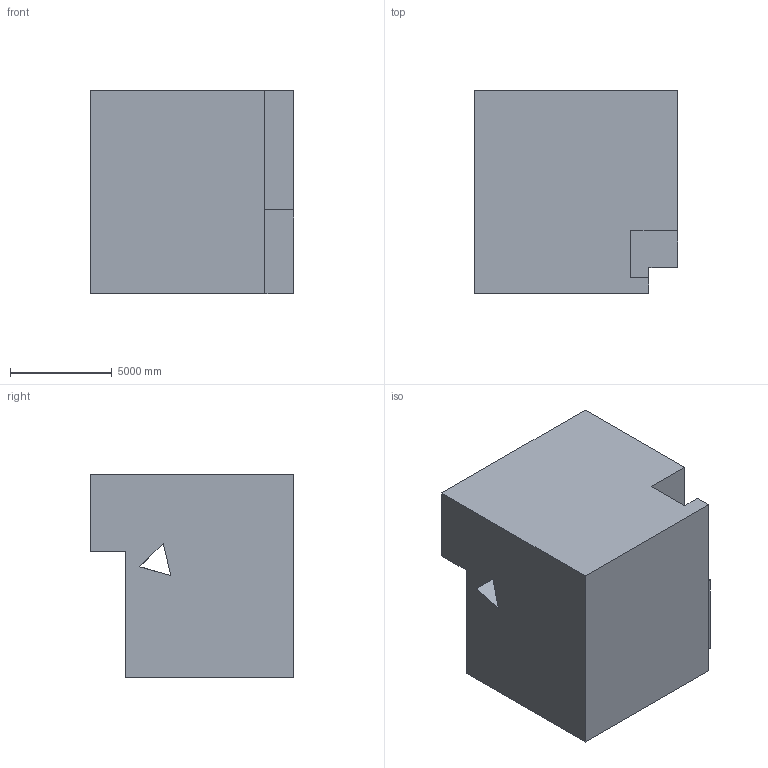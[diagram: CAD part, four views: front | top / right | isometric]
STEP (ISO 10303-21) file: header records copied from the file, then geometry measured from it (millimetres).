
FILE_DESCRIPTION (( 'STEP AP203' ), '1' );
FILE_NAME ('566.STEP', '2022-07-29T11:51:15', ( 'user' ), ( '' ), 'SwSTEP 2.0', 'SolidWorks 2021', '' );
FILE_SCHEMA (( 'CONFIG_CONTROL_DESIGN' ));
Length unit declared in the file: centimetre
Products named in the file (1): 566
Bounding box: 10000 x 10000 x 10000 mm (x, y, z)
Volume: 764192275956.5 mm3; surface area: 684086292.7 mm2
Topology: 1 solids, 1 shells, 26 faces, 75 edges, 50 vertices
Faces by surface type: plane 25, cylinder 1
Entity records: 923 total; most frequent: CARTESIAN_POINT 158, ORIENTED_EDGE 150, DIRECTION 130, EDGE_CURVE 75, VECTOR 70, LINE 70, VERTEX_POINT 50, AXIS2_PLACEMENT_3D 30
